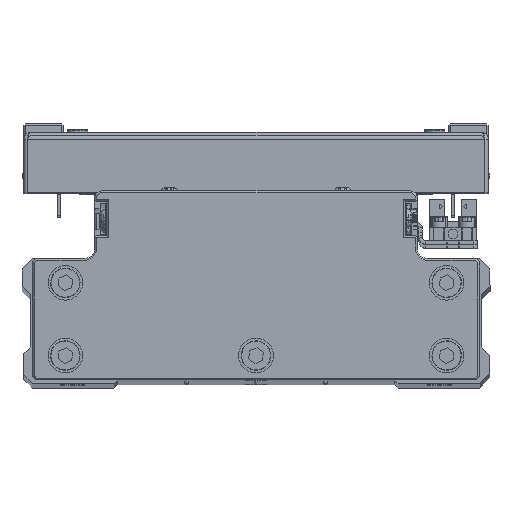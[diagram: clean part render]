
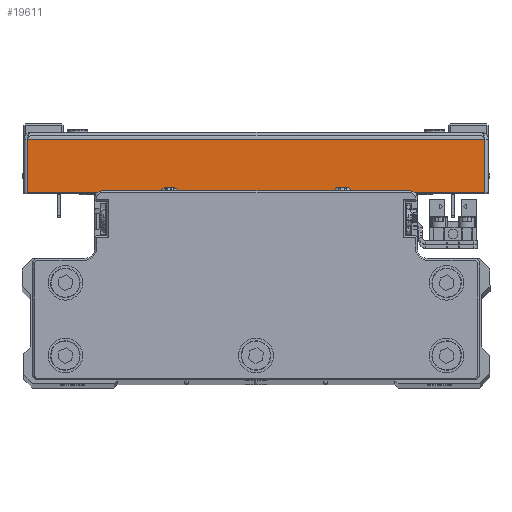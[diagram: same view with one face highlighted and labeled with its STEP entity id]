
A CAD part, top view. The second image highlights one B-rep face of the part: STEP entity #19611.
In plain terms, the highlighted planar face has unit normal (0, 0, 1) as drawn and (1, 0, 0) by its records, which use the part's own axes.
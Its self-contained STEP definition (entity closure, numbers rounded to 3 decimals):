
#86 = CARTESIAN_POINT ( 'NONE',  ( 75., 0., -65.929 ) ) ;
#1186 = CARTESIAN_POINT ( 'NONE',  ( 75., 1., 65.929 ) ) ;
#1259 = DIRECTION ( 'NONE',  ( 0., -1., 0. ) ) ;
#4592 = PLANE ( 'NONE',  #13766 ) ;
#8132 = ORIENTED_EDGE ( 'NONE', *, *, #20665, .T. ) ;
#10550 = LINE ( 'NONE', #24056, #10800 ) ;
#10800 = VECTOR ( 'NONE', #37599, 1000. ) ;
#11580 = ORIENTED_EDGE ( 'NONE', *, *, #27842, .F. ) ;
#12105 = CARTESIAN_POINT ( 'NONE',  ( 75., 16.5, -65.929 ) ) ;
#12274 = EDGE_CURVE ( 'NONE', #38157, #22425, #30386, .T. ) ;
#12394 = LINE ( 'NONE', #25881, #22033 ) ;
#12570 = DIRECTION ( 'NONE',  ( 0., 0., 1. ) ) ;
#13569 = DIRECTION ( 'NONE',  ( 0., 1., 0. ) ) ;
#13766 = AXIS2_PLACEMENT_3D ( 'NONE', #18074, #31576, #1259 ) ;
#16396 = ORIENTED_EDGE ( 'NONE', *, *, #41775, .F. ) ;
#16440 = VERTEX_POINT ( 'NONE', #1186 ) ;
#18074 = CARTESIAN_POINT ( 'NONE',  ( 75., 0., 0. ) ) ;
#18500 = CARTESIAN_POINT ( 'NONE',  ( 75., 1., -65.929 ) ) ;
#18924 = EDGE_LOOP ( 'NONE', ( #11580, #23205, #8132, #16396 ) ) ;
#19611 = ADVANCED_FACE ( 'NONE', ( #38242 ), #4592, .F. ) ;
#20665 = EDGE_CURVE ( 'NONE', #22425, #26314, #10550, .T. ) ;
#21780 = VECTOR ( 'NONE', #12570, 1000. ) ;
#22033 = VECTOR ( 'NONE', #39411, 1000. ) ;
#22425 = VERTEX_POINT ( 'NONE', #12105 ) ;
#23205 = ORIENTED_EDGE ( 'NONE', *, *, #12274, .T. ) ;
#24056 = CARTESIAN_POINT ( 'NONE',  ( 75., 16.5, 0. ) ) ;
#25881 = CARTESIAN_POINT ( 'NONE',  ( 75., 0., 65.929 ) ) ;
#26314 = VERTEX_POINT ( 'NONE', #37416 ) ;
#26748 = VECTOR ( 'NONE', #13569, 1000. ) ;
#27842 = EDGE_CURVE ( 'NONE', #38157, #16440, #29398, .T. ) ;
#29398 = LINE ( 'NONE', #42939, #21780 ) ;
#30386 = LINE ( 'NONE', #86, #26748 ) ;
#31576 = DIRECTION ( 'NONE',  ( -1., 0., 0. ) ) ;
#37416 = CARTESIAN_POINT ( 'NONE',  ( 75., 16.5, 65.929 ) ) ;
#37599 = DIRECTION ( 'NONE',  ( 0., 0., 1. ) ) ;
#38157 = VERTEX_POINT ( 'NONE', #18500 ) ;
#38242 = FACE_OUTER_BOUND ( 'NONE', #18924, .T. ) ;
#39411 = DIRECTION ( 'NONE',  ( 0., 1., 0. ) ) ;
#41775 = EDGE_CURVE ( 'NONE', #16440, #26314, #12394, .T. ) ;
#42939 = CARTESIAN_POINT ( 'NONE',  ( 75., 1., 67. ) ) ;
